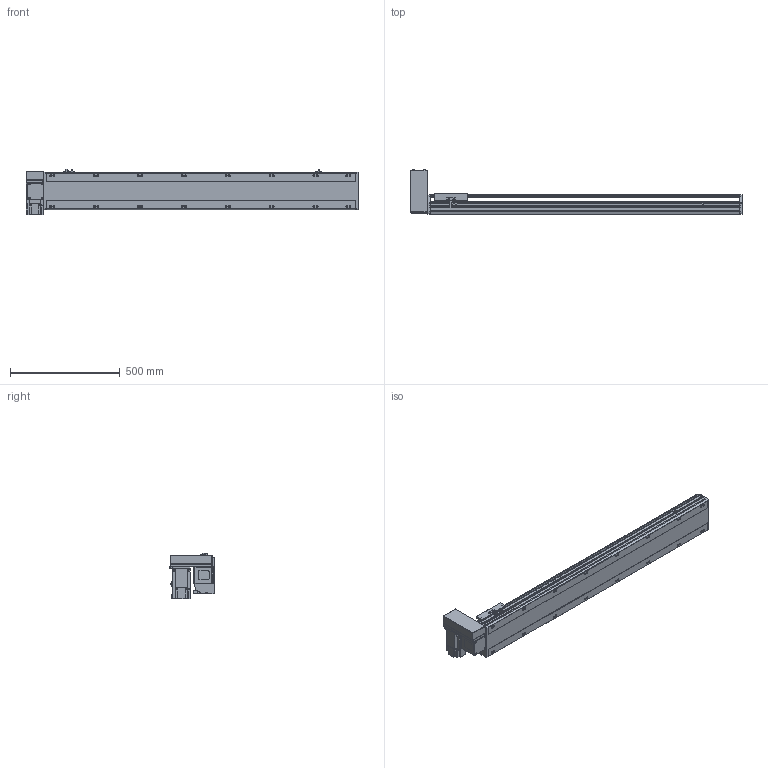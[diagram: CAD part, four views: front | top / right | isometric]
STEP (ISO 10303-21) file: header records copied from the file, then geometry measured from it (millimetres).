
FILE_DESCRIPTION(/* description */ ('STEP AP214'),/* implementation_level */ '2;1');
FILE_NAME(/* name */ 'PBS170-P40-S1150-RU-T75-C1-N(0)',/* time_stamp */ '2022-06-08T07:58:12+02:00',/* author */ ('License CC BY-ND 4.0'),/* organization */ ('CADENAS'),/* preprocessor_version */ 'ST-DEVELOPER v18.102',/* originating_system */ 'PARTsolutions',/* authorisation */ ' ');
FILE_SCHEMA (('AUTOMOTIVE_DESIGN {1 0 10303 214 3 1 1}'));
Length unit declared in the file: millimetre
Products named in the file (7): PBS170-P40-S1150-RU-T75-C1-N(0); PBS170_sensor; PBS170_plant; PBS170_sliser; T75-p1; PBS170T-RU_motors; PBS170-S1150()_body
Assembly tree (8 placements, depth 2):
  PBS170-P40-S1150-RU-T75-C1-N(0)
    PBS170_sensor  x3
    PBS170_plant
    PBS170_sliser
    T75-p1
    PBS170T-RU_motors
    PBS170-S1150()_body
Bounding box: 1513 x 206 x 205.3 mm (x, y, z)
Volume: 12059799 mm3; surface area: 1568894.4 mm2
Topology: 8 solids, 8 shells, 1082 faces, 2875 edges, 1874 vertices
Faces by surface type: plane 687, cylinder 339, cone 46, sphere 8, torus 2
Full cylindrical faces by diameter (mm): 3.242 x4, 4 x2, 4.4 x4, 4.5 x6, 4.917 x4, 6 x9, 6.647 x24, 7 x2, 7.5 x4, 8 x8, 8.5 x16, 10 x4, 10.5 x16, 11 x2, 30 x2, 40 x1, 70 x1
Entity records: 31118 total; most frequent: CARTESIAN_POINT 5713, DIRECTION 5300, ORIENTED_EDGE 5028, EDGE_CURVE 2514, AXIS2_PLACEMENT_3D 1837, VERTEX_POINT 1730, LINE 1626, VECTOR 1626
